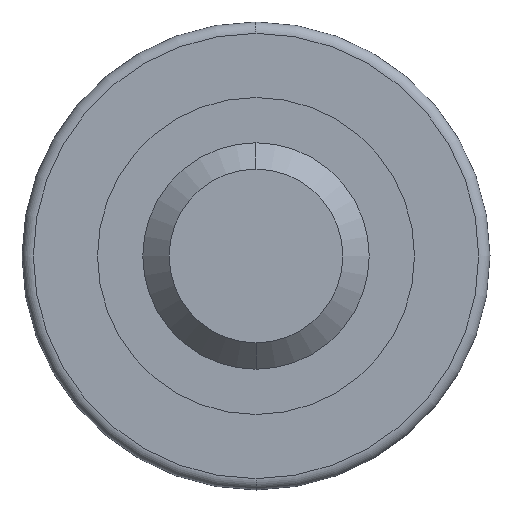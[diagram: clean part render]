
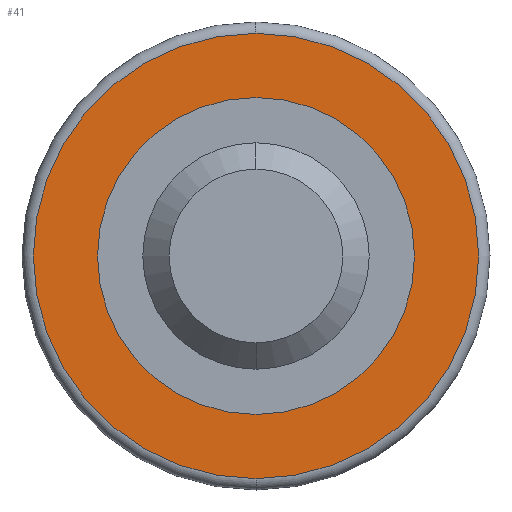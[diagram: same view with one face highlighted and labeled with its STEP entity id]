
A CAD part, left-side view. The second image highlights one B-rep face of the part: STEP entity #41.
In plain terms, the highlighted planar face has unit normal (-1, 0, 0).
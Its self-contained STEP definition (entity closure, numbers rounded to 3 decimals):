
#13 = EDGE_LOOP ( 'NONE', ( #685, #537 ) ) ;
#16 = VERTEX_POINT ( 'NONE', #233 ) ;
#24 = ORIENTED_EDGE ( 'NONE', *, *, #503, .F. ) ;
#41 = ADVANCED_FACE ( 'NONE', ( #385, #386 ), #387, .T. ) ;
#49 = EDGE_CURVE ( 'NONE', #292, #673, #433, .T. ) ;
#75 = EDGE_LOOP ( 'NONE', ( #24, #705 ) ) ;
#82 = CIRCLE ( 'NONE', #83, 21. ) ;
#83 = AXIS2_PLACEMENT_3D ( 'NONE', #84, #85, #86 ) ;
#84 = CARTESIAN_POINT ( 'NONE',  ( 15., 0., 0. ) ) ;
#85 = DIRECTION ( 'NONE',  ( 1., 0., 0. ) ) ;
#86 = DIRECTION ( 'NONE',  ( 0., 0., -1. ) ) ;
#100 = CARTESIAN_POINT ( 'NONE',  ( 15., 0., -21. ) ) ;
#139 = CARTESIAN_POINT ( 'NONE',  ( 15., 0., 29.5 ) ) ;
#169 = CIRCLE ( 'NONE', #171, 29.5 ) ;
#171 = AXIS2_PLACEMENT_3D ( 'NONE', #172, #173, #174 ) ;
#172 = CARTESIAN_POINT ( 'NONE',  ( 15., 0., 0. ) ) ;
#173 = DIRECTION ( 'NONE',  ( 1., 0., 0. ) ) ;
#174 = DIRECTION ( 'NONE',  ( 0., 0., -1. ) ) ;
#225 = EDGE_CURVE ( 'NONE', #673, #292, #82, .T. ) ;
#233 = CARTESIAN_POINT ( 'NONE',  ( 15., 0., -29.5 ) ) ;
#292 = VERTEX_POINT ( 'NONE', #100 ) ;
#385 = FACE_BOUND ( 'NONE', #13, .T. ) ;
#386 = FACE_OUTER_BOUND ( 'NONE', #75, .T. ) ;
#387 = PLANE ( 'NONE',  #388 ) ;
#388 = AXIS2_PLACEMENT_3D ( 'NONE', #389, #390, #391 ) ;
#389 = CARTESIAN_POINT ( 'NONE',  ( 15., 21., 0. ) ) ;
#390 = DIRECTION ( 'NONE',  ( -1., 0., 0. ) ) ;
#391 = DIRECTION ( 'NONE',  ( 0., 0., 1. ) ) ;
#433 = CIRCLE ( 'NONE', #434, 21. ) ;
#434 = AXIS2_PLACEMENT_3D ( 'NONE', #436, #437, #438 ) ;
#436 = CARTESIAN_POINT ( 'NONE',  ( 15., 0., 0. ) ) ;
#437 = DIRECTION ( 'NONE',  ( 1., 0., 0. ) ) ;
#438 = DIRECTION ( 'NONE',  ( 0., 0., -1. ) ) ;
#489 = CARTESIAN_POINT ( 'NONE',  ( 15., 0., 21. ) ) ;
#503 = EDGE_CURVE ( 'NONE', #16, #720, #169, .T. ) ;
#533 = CIRCLE ( 'NONE', #534, 29.5 ) ;
#534 = AXIS2_PLACEMENT_3D ( 'NONE', #535, #536, #540 ) ;
#535 = CARTESIAN_POINT ( 'NONE',  ( 15., 0., 0. ) ) ;
#536 = DIRECTION ( 'NONE',  ( 1., 0., 0. ) ) ;
#537 = ORIENTED_EDGE ( 'NONE', *, *, #225, .T. ) ;
#540 = DIRECTION ( 'NONE',  ( 0., 0., -1. ) ) ;
#673 = VERTEX_POINT ( 'NONE', #489 ) ;
#681 = EDGE_CURVE ( 'NONE', #720, #16, #533, .T. ) ;
#685 = ORIENTED_EDGE ( 'NONE', *, *, #49, .T. ) ;
#705 = ORIENTED_EDGE ( 'NONE', *, *, #681, .F. ) ;
#720 = VERTEX_POINT ( 'NONE', #139 ) ;
